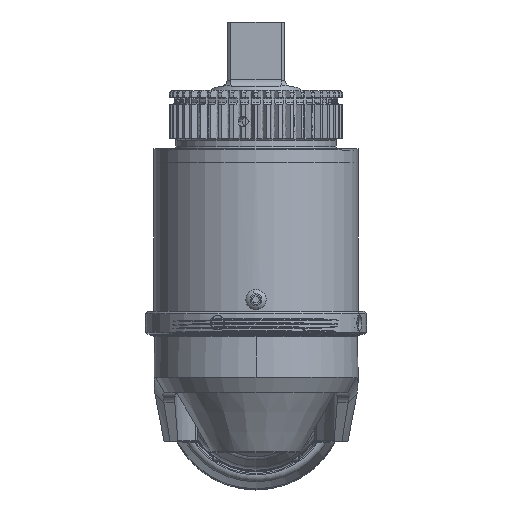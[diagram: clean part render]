
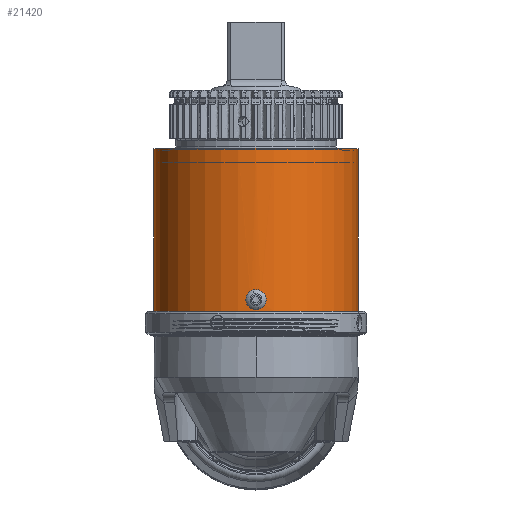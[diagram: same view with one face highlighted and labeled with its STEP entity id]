
A CAD part, top view. The second image highlights one B-rep face of the part: STEP entity #21420.
In plain terms, the highlighted cylindrical face has radius 33.655 mm (diameter 67.31 mm), a partial arc.
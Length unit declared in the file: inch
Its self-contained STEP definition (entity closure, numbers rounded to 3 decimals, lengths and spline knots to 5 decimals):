
#1592 = CARTESIAN_POINT ( 'NONE',  ( -1.325, 1.135, 15.7906 ) ) ;
#2186 = CARTESIAN_POINT ( 'NONE',  ( 0.02055, 1.20907, 17.11547 ) ) ;
#2292 = CARTESIAN_POINT ( 'NONE',  ( -0.0346, 1.3551, 17.11515 ) ) ;
#2652 = CARTESIAN_POINT ( 'NONE',  ( -0.02515, 1.21099, 17.11537 ) ) ;
#4324 = VERTEX_POINT ( 'NONE', #111167 ) ;
#7541 = CARTESIAN_POINT ( 'NONE',  ( 0.05879, 1.23349, 17.1143 ) ) ;
#7663 = CARTESIAN_POINT ( 'NONE',  ( 0., 1.135, 15.7906 ) ) ;
#10119 = VERTEX_POINT ( 'NONE', #34706 ) ;
#10398 = ORIENTED_EDGE ( 'NONE', *, *, #31180, .T. ) ;
#10465 = EDGE_LOOP ( 'NONE', ( #78533, #46701, #25412, #100302 ) ) ;
#11236 = CARTESIAN_POINT ( 'NONE',  ( -0.02028, 1.36049, 17.11545 ) ) ;
#11627 = CARTESIAN_POINT ( 'NONE',  ( -0.03459, 1.2149, 17.11515 ) ) ;
#13041 = CARTESIAN_POINT ( 'NONE',  ( 0.04768, 1.22306, 17.11474 ) ) ;
#15929 = CARTESIAN_POINT ( 'NONE',  ( 0., 1.135, 15.7906 ) ) ;
#16525 = DIRECTION ( 'NONE',  ( 0., 1., 0. ) ) ;
#18484 = CARTESIAN_POINT ( 'NONE',  ( 0.07553, 1.26487, 17.11344 ) ) ;
#19766 = CARTESIAN_POINT ( 'NONE',  ( 0.07549, 1.30526, 17.11344 ) ) ;
#19882 = CARTESIAN_POINT ( 'NONE',  ( -0.00512, 1.363, 17.1156 ) ) ;
#20248 = CARTESIAN_POINT ( 'NONE',  ( -0.04755, 1.22296, 17.11475 ) ) ;
#20512 = CARTESIAN_POINT ( 'NONE',  ( 0.0516, 1.22629, 17.1146 ) ) ;
#20623 = CARTESIAN_POINT ( 'NONE',  ( 0., 1.207, 17.1156 ) ) ;
#21144 = CARTESIAN_POINT ( 'NONE',  ( 0.07801, 1.27993, 17.1133 ) ) ;
#21420 = ADVANCED_FACE ( 'NONE', ( #35001, #32196 ), #29382, .T. ) ;
#22643 = EDGE_CURVE ( 'NONE', #28734, #91822, #62358, .T. ) ;
#23073 = AXIS2_PLACEMENT_3D ( 'NONE', #15929, #78328, #24938 ) ;
#24357 = CARTESIAN_POINT ( 'NONE',  ( 0.06773, 1.24599, 17.11387 ) ) ;
#24938 = DIRECTION ( 'NONE',  ( -1., 0., 0. ) ) ;
#25150 = AXIS2_PLACEMENT_3D ( 'NONE', #99412, #46100, #108432 ) ;
#25361 = DIRECTION ( 'NONE',  ( 0., 1., 0. ) ) ;
#25412 = ORIENTED_EDGE ( 'NONE', *, *, #53715, .T. ) ;
#25533 = CARTESIAN_POINT ( 'NONE',  ( 0.03917, 1.21735, 17.11502 ) ) ;
#28215 = CARTESIAN_POINT ( 'NONE',  ( 0.07404, 1.25993, 17.11353 ) ) ;
#28734 = VERTEX_POINT ( 'NONE', #68098 ) ;
#28836 = CARTESIAN_POINT ( 'NONE',  ( -0.07013, 1.31953, 17.11374 ) ) ;
#29199 = CARTESIAN_POINT ( 'NONE',  ( -0.07594, 1.26452, 17.11342 ) ) ;
#29382 = CYLINDRICAL_SURFACE ( 'NONE', #65563, 1.325 ) ;
#29586 = CARTESIAN_POINT ( 'NONE',  ( -0.01022, 1.20751, 17.11557 ) ) ;
#31180 = EDGE_CURVE ( 'NONE', #91822, #28734, #34033, .T. ) ;
#31543 = VERTEX_POINT ( 'NONE', #67945 ) ;
#32196 = FACE_BOUND ( 'NONE', #65246, .T. ) ;
#32482 = CARTESIAN_POINT ( 'NONE',  ( 0.07399, 1.31022, 17.11353 ) ) ;
#33932 = CARTESIAN_POINT ( 'NONE',  ( 1.325, 1.135, 15.7906 ) ) ;
#34033 = B_SPLINE_CURVE_WITH_KNOTS ( 'NONE', 3,
 ( #39722, #75718, #57008, #95987, #52404, #110502, #37291, #90161, #109231, #32482, #19766, #100348, #55226, #21144, #90910, #18484, #28215, #111655, #24357, #64958, #7541, #20512, #13041, #25533, #99968, #2186, #98688, #76504 ),
 .UNSPECIFIED., .F., .F.,
 ( 4, 2, 2, 2, 2, 2, 2, 2, 2, 2, 2, 2, 2, 4 ),
 ( 0.00619, 0.00697, 0.00774, 0.00813, 0.00852, 0.0089, 0.00929, 0.00968, 0.01007, 0.01045, 0.01084, 0.01123, 0.01162, 0.01239 ),
 .UNSPECIFIED. ) ;
#34706 = CARTESIAN_POINT ( 'NONE',  ( 1.325, 3.25, 15.7906 ) ) ;
#35001 = FACE_OUTER_BOUND ( 'NONE', #10465, .T. ) ;
#35768 = EDGE_CURVE ( 'NONE', #4324, #38125, #96233, .T. ) ;
#35778 = CIRCLE ( 'NONE', #25150, 1.325 ) ;
#37291 = CARTESIAN_POINT ( 'NONE',  ( 0.062, 1.33261, 17.11415 ) ) ;
#37786 = CARTESIAN_POINT ( 'NONE',  ( -0.06204, 1.33255, 17.11415 ) ) ;
#38125 = VERTEX_POINT ( 'NONE', #76768 ) ;
#38175 = CARTESIAN_POINT ( 'NONE',  ( -0.06816, 1.24575, 17.11385 ) ) ;
#39722 = CARTESIAN_POINT ( 'NONE',  ( -0.00003, 1.363, 17.1156 ) ) ;
#46100 = DIRECTION ( 'NONE',  ( 0., -1., 0. ) ) ;
#46701 = ORIENTED_EDGE ( 'NONE', *, *, #78123, .F. ) ;
#46766 = CARTESIAN_POINT ( 'NONE',  ( -0.05154, 1.34377, 17.1146 ) ) ;
#47138 = CARTESIAN_POINT ( 'NONE',  ( -0.07551, 1.30522, 17.11344 ) ) ;
#47602 = CARTESIAN_POINT ( 'NONE',  ( -0.00003, 1.363, 17.1156 ) ) ;
#47814 = VECTOR ( 'NONE', #25361, 39.37008 ) ;
#52404 = CARTESIAN_POINT ( 'NONE',  ( 0.0479, 1.34739, 17.11475 ) ) ;
#53715 = EDGE_CURVE ( 'NONE', #31543, #10119, #92390, .T. ) ;
#55226 = CARTESIAN_POINT ( 'NONE',  ( 0.07799, 1.29022, 17.1133 ) ) ;
#55712 = CARTESIAN_POINT ( 'NONE',  ( -0.03915, 1.35265, 17.11502 ) ) ;
#56095 = CARTESIAN_POINT ( 'NONE',  ( -0.0775, 1.29521, 17.11333 ) ) ;
#57008 = CARTESIAN_POINT ( 'NONE',  ( 0.02042, 1.36096, 17.11547 ) ) ;
#59213 = ORIENTED_EDGE ( 'NONE', *, *, #22643, .T. ) ;
#61143 = DIRECTION ( 'NONE',  ( 0., 1., 0. ) ) ;
#62358 = B_SPLINE_CURVE_WITH_KNOTS ( 'NONE', 3,
 ( #20623, #65440, #29586, #74040, #2652, #11627, #65069, #20248, #82646, #91532, #38175, #29199, #100465, #109477, #56095, #47138, #82260, #28836, #91163, #37786, #100077, #46766, #109096, #55712, #2292, #64690, #11236, #73652, #19882, #73285 ),
 .UNSPECIFIED., .F., .F.,
 ( 4, 2, 2, 2, 2, 2, 2, 2, 2, 2, 2, 2, 2, 2, 4 ),
 ( 0., 0.00039, 0.00077, 0.00116, 0.00155, 0.00232, 0.0031, 0.00348, 0.00387, 0.00426, 0.00465, 0.00503, 0.00542, 0.00581, 0.00619 ),
 .UNSPECIFIED. ) ;
#64690 = CARTESIAN_POINT ( 'NONE',  ( -0.02515, 1.35901, 17.11537 ) ) ;
#64958 = CARTESIAN_POINT ( 'NONE',  ( 0.06209, 1.23751, 17.11414 ) ) ;
#65069 = CARTESIAN_POINT ( 'NONE',  ( -0.03907, 1.2173, 17.11503 ) ) ;
#65246 = EDGE_LOOP ( 'NONE', ( #59213, #10398 ) ) ;
#65440 = CARTESIAN_POINT ( 'NONE',  ( -0.00515, 1.207, 17.1156 ) ) ;
#65563 = AXIS2_PLACEMENT_3D ( 'NONE', #7663, #16525, #66963 ) ;
#66963 = DIRECTION ( 'NONE',  ( 1., 0., 0. ) ) ;
#67945 = CARTESIAN_POINT ( 'NONE',  ( 1.325, 1.135, 15.7906 ) ) ;
#68098 = CARTESIAN_POINT ( 'NONE',  ( 0., 1.207, 17.1156 ) ) ;
#73285 = CARTESIAN_POINT ( 'NONE',  ( -0.00003, 1.363, 17.1156 ) ) ;
#73377 = EDGE_CURVE ( 'NONE', #10119, #38125, #35778, .T. ) ;
#73652 = CARTESIAN_POINT ( 'NONE',  ( -0.01029, 1.36249, 17.11557 ) ) ;
#74040 = CARTESIAN_POINT ( 'NONE',  ( -0.02019, 1.20949, 17.11545 ) ) ;
#75718 = CARTESIAN_POINT ( 'NONE',  ( 0.01015, 1.363, 17.1156 ) ) ;
#76504 = CARTESIAN_POINT ( 'NONE',  ( 0., 1.207, 17.1156 ) ) ;
#76768 = CARTESIAN_POINT ( 'NONE',  ( -1.325, 3.25, 15.7906 ) ) ;
#78123 = EDGE_CURVE ( 'NONE', #31543, #4324, #84085, .T. ) ;
#78328 = DIRECTION ( 'NONE',  ( 0., -1., 0. ) ) ;
#78533 = ORIENTED_EDGE ( 'NONE', *, *, #35768, .F. ) ;
#82260 = CARTESIAN_POINT ( 'NONE',  ( -0.07403, 1.31008, 17.11353 ) ) ;
#82646 = CARTESIAN_POINT ( 'NONE',  ( -0.05156, 1.22625, 17.1146 ) ) ;
#84085 = CIRCLE ( 'NONE', #23073, 1.325 ) ;
#90161 = CARTESIAN_POINT ( 'NONE',  ( 0.06767, 1.32413, 17.11387 ) ) ;
#90677 = VECTOR ( 'NONE', #61143, 39.37008 ) ;
#90910 = CARTESIAN_POINT ( 'NONE',  ( 0.0775, 1.27484, 17.11333 ) ) ;
#91163 = CARTESIAN_POINT ( 'NONE',  ( -0.06769, 1.32409, 17.11387 ) ) ;
#91532 = CARTESIAN_POINT ( 'NONE',  ( -0.06235, 1.23705, 17.11415 ) ) ;
#91822 = VERTEX_POINT ( 'NONE', #47602 ) ;
#92390 = LINE ( 'NONE', #33932, #47814 ) ;
#95987 = CARTESIAN_POINT ( 'NONE',  ( 0.0392, 1.3532, 17.11505 ) ) ;
#96233 = LINE ( 'NONE', #1592, #90677 ) ;
#98688 = CARTESIAN_POINT ( 'NONE',  ( 0.01031, 1.207, 17.1156 ) ) ;
#99412 = CARTESIAN_POINT ( 'NONE',  ( 0., 3.25, 15.7906 ) ) ;
#99968 = CARTESIAN_POINT ( 'NONE',  ( 0.03462, 1.21492, 17.11515 ) ) ;
#100077 = CARTESIAN_POINT ( 'NONE',  ( -0.05882, 1.33649, 17.11429 ) ) ;
#100302 = ORIENTED_EDGE ( 'NONE', *, *, #73377, .T. ) ;
#100348 = CARTESIAN_POINT ( 'NONE',  ( 0.07749, 1.29529, 17.11333 ) ) ;
#100465 = CARTESIAN_POINT ( 'NONE',  ( -0.07799, 1.27478, 17.1133 ) ) ;
#108432 = DIRECTION ( 'NONE',  ( -1., 0., 0. ) ) ;
#109096 = CARTESIAN_POINT ( 'NONE',  ( -0.0476, 1.347, 17.11475 ) ) ;
#109231 = CARTESIAN_POINT ( 'NONE',  ( 0.07007, 1.31965, 17.11374 ) ) ;
#109477 = CARTESIAN_POINT ( 'NONE',  ( -0.078, 1.29005, 17.1133 ) ) ;
#110502 = CARTESIAN_POINT ( 'NONE',  ( 0.0587, 1.33662, 17.1143 ) ) ;
#111167 = CARTESIAN_POINT ( 'NONE',  ( -1.325, 1.135, 15.7906 ) ) ;
#111655 = CARTESIAN_POINT ( 'NONE',  ( 0.07013, 1.25047, 17.11374 ) ) ;
